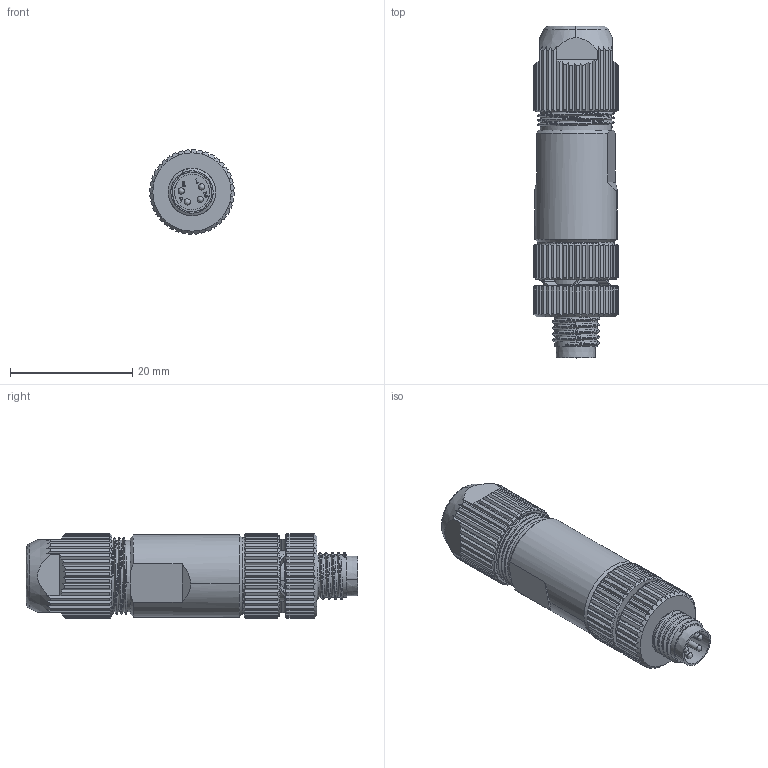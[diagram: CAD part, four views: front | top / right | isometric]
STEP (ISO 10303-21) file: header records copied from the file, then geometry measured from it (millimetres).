
FILE_DESCRIPTION (( 'STEP AP203' ), '1' );
FILE_NAME ('63F161 230115.STEP', '2023-01-15T07:54:26', ( '' ), ( '' ), 'SwSTEP 2.0', 'SolidWorks 2016', '' );
FILE_SCHEMA (( 'CONFIG_CONTROL_DESIGN' ));
Length unit declared in the file: millimetre
Products named in the file (1): 63F161 230115
Bounding box: 13.8 x 54.2 x 13.8 mm (x, y, z)
Volume: 5623.1 mm3; surface area: 6153.8 mm2
Topology: 2 solids, 9 shells, 1021 faces, 3057 edges, 2046 vertices
Faces by surface type: plane 383, cylinder 295, cone 240, bspline 103
Entity records: 54674 total; most frequent: CARTESIAN_POINT 29539, ORIENTED_EDGE 6092, DIRECTION 4148, EDGE_CURVE 3046, VERTEX_POINT 2046, AXIS2_PLACEMENT_3D 1596, B_SPLINE_CURVE_WITH_KNOTS 1395, EDGE_LOOP 1064
